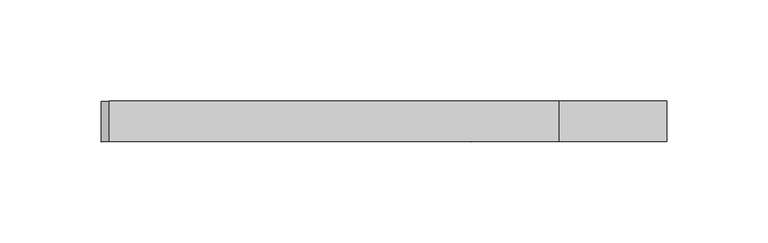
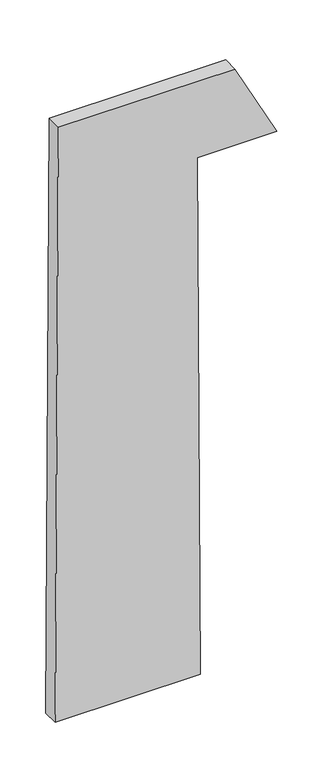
"""IFC4 building model written with IfcOpenShell, lengths in millimetres: plate geometry, 空系统嵌板 : 空."""

from ifc_helpers import new_model, si_unit, frame, origin, place, context, project, spatial, polyline, outline, extrude, source, transform, mapped, element, save


def plate_fe606144(model_context):
    return source(origin(), model_context, "Body", "SweptSolid", [
        extrude(outline(polyline([(0.0, -139.5616442), (0.0, 42.9027533), (688.0573214, 39.5628223), (688.5427304, 139.5616442), (789.8718884, 86.5307934), (790.0306157, -135.5211171), (0.0, -139.5616442)])), frame((0.0, -10.0, 0.0), z_axis=(0.0, 1.0, 0.0), x_axis=(0.0, 0.0, 1.0)), (0.0, 0.0, 1.0), 20.0),
    ])


if __name__ == "__main__":
    model = new_model("IFC4")
    model_context = context("Model", 3, world=origin())
    ifc_project = project(units=[si_unit("LENGTHUNIT", "METRE", prefix="MILLI")], contexts=[model_context])
    site = spatial("IfcSite", under=ifc_project)
    building = spatial("IfcBuilding", under=site)
    placement = place(None, origin())
    plate_shape = plate_fe606144(model_context)
    element("IfcPlate", 1, ObjectType="空系统嵌板 : 空", at=placement, inside=building, context=model_context, shape_type="MappedRepresentation", body=[
        mapped(plate_shape, transform((0.0, 0.0, 0.0), x_axis=(1.0, 0.0, 0.0), y_axis=(0.0, 1.0, 0.0), z_axis=(0.0, 0.0, 1.0))),
    ])
    save(model, "model.ifc")
